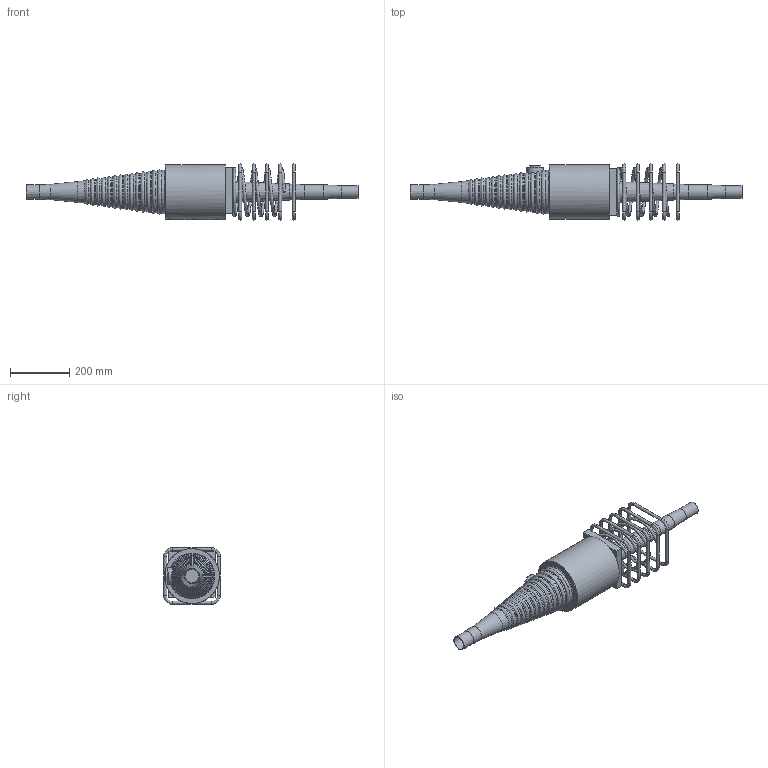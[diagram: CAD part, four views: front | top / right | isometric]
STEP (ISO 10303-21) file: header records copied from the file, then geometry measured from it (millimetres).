
FILE_DESCRIPTION(/* description */ (''),/* implementation_level */ '2;1');
FILE_NAME(/* name */ 'Z:\04 Publications\05 Give-out\BBR\6_3D_Models\BBR VT CONA CMI\BBR VT CONA CMI SP\00406\BBR VT CONA CMI SP 406_Coupler H Assembly_CS-34,28.stp',/* time_stamp */ '2017-05-05T13:41:04+02:00',/* author */ ('IP'),/* organization */ (''),/* preprocessor_version */ 'ST-DEVELOPER v16.1',/* originating_system */ 'Autodesk Inventor 2016',/* authorisation */ '');
FILE_SCHEMA (('AUTOMOTIVE_DESIGN { 1 0 10303 214 3 1 1 }'));
Length unit declared in the file: millimetre
Products named in the file (1): BBR VT CONA CMI SP 406_Coupler H Assembly_CS-34,28
Bounding box: 1116.33 x 190 x 190 mm (x, y, z)
Volume: 7783430.1 mm3; surface area: 743492.2 mm2
Topology: 8 solids, 8 shells, 933 faces, 2374 edges, 1509 vertices
Faces by surface type: bspline 412, plane 266, torus 117, cylinder 89, cone 37, sphere 12
Full cylindrical faces by diameter (mm): 10 x20, 34.158 x1, 42 x1, 49 x1, 50 x1, 57 x1, 185 x1
Entity records: 39307 total; most frequent: CARTESIAN_POINT 19599, ORIENTED_EDGE 4420, DIRECTION 2913, EDGE_CURVE 2208, VERTEX_POINT 1501, EDGE_LOOP 1156, AXIS2_PLACEMENT_3D 1007, FACE_OUTER_BOUND 933
